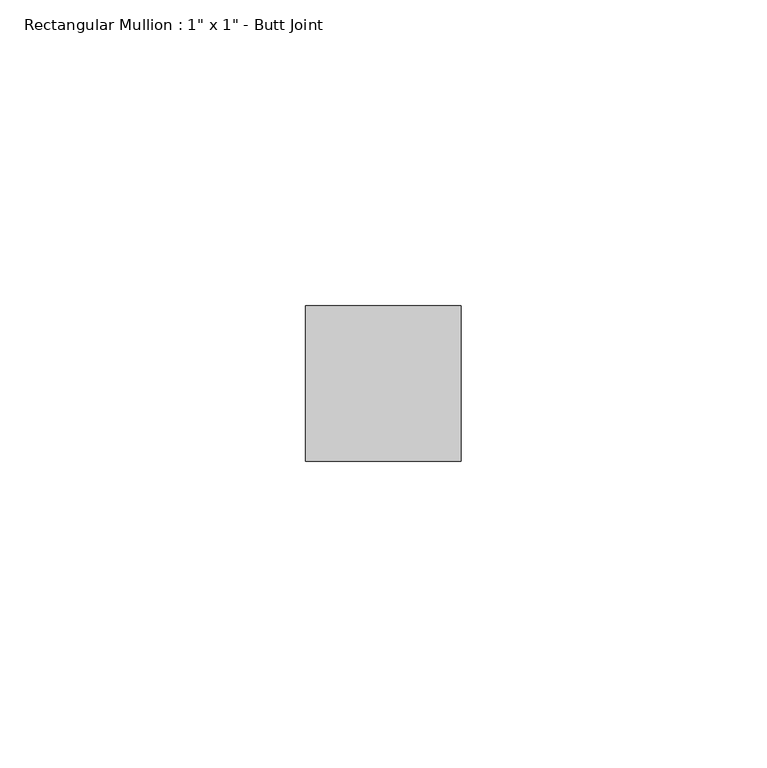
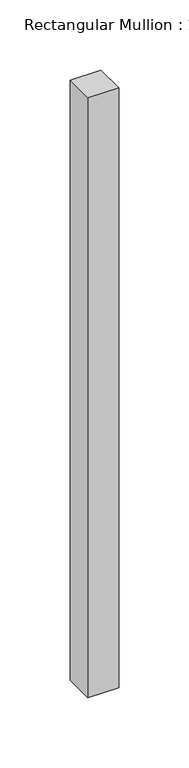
"""IFC4 building model written with IfcOpenShell, lengths in millimetres: member geometry."""

from ifc_helpers import new_model, si_unit, frame, origin, place, context, project, spatial, polyline, outline, extrude, source, transform, mapped, element, save


def member_d9fe2114(model_context):
    return source(origin(), model_context, "Body", "SweptSolid", [
        extrude(outline(polyline([(12.7, 12.7), (12.7, -12.7), (-12.7, -12.7), (-12.7, 12.7), (12.7, 12.7)])), frame((0.0, 0.0, -523.24), z_axis=(0.0, 0.0, 1.0), x_axis=(1.0, 0.0, 0.0)), (0.0, 0.0, 1.0), 523.24),
    ])


if __name__ == "__main__":
    model = new_model("IFC4")
    model_context = context("Model", 3, world=origin())
    ifc_project = project(units=[si_unit("LENGTHUNIT", "METRE", prefix="MILLI")], contexts=[model_context])
    site = spatial("IfcSite", under=ifc_project)
    building = spatial("IfcBuilding", under=site)
    placement = place(None, origin())
    member_shape = member_d9fe2114(model_context)
    element("IfcMember", 1, ObjectType="Rectangular Mullion : 1\" x 1\" - Butt Joint", at=placement, inside=building, context=model_context, shape_type="MappedRepresentation", body=[
        mapped(member_shape, transform((0.0, 0.0, 0.0), x_axis=(1.0, 0.0, 0.0), y_axis=(0.0, 1.0, 0.0), z_axis=(0.0, 0.0, 1.0))),
    ])
    save(model, "model.ifc")
